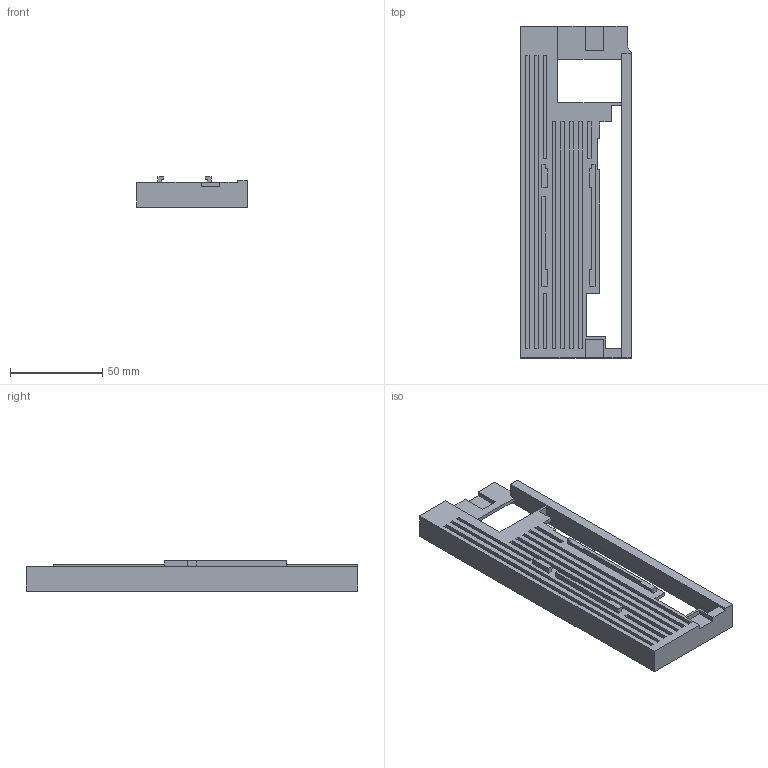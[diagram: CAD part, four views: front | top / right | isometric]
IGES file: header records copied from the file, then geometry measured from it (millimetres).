
Start section:  PTC IGES file: j4rj-frontpanel.igs
Global section: file name: j4rj-frontpanel.igs; native system: Pro/ENGINEER by Parametric Technology Corporation; preprocessor: 2010160; author: JE18792; organization: Unknown; date: 20121101.154100; units: millimetre
Bounding box: 60 x 180 x 16.5 mm (x, y, z)
Volume: 29582.6 mm3; surface area: 33900 mm2
Topology: 1 solids, 1 shells, 130 faces, 354 edges, 236 vertices
Faces by surface type: bspline 130
